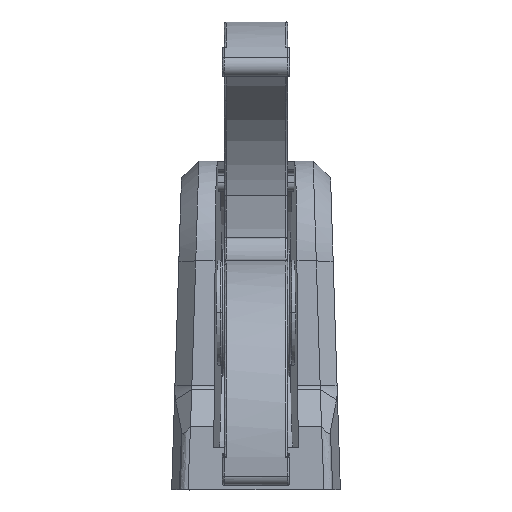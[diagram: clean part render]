
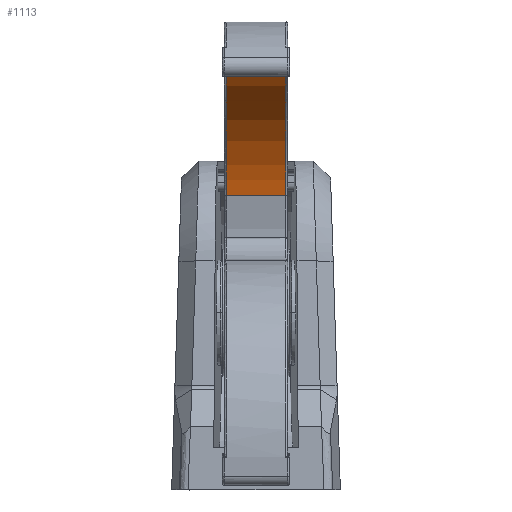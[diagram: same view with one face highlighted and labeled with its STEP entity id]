
A CAD part, left-side view. The second image highlights one B-rep face of the part: STEP entity #1113.
In plain terms, the highlighted free-form (B-spline) face has degree [2, 1] with [5, 2] control points.
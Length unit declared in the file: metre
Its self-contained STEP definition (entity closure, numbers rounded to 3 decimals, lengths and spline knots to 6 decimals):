
#1113 = ADVANCED_FACE( '', ( #2415 ), #2416, .F. );
#2415 = FACE_OUTER_BOUND( '', #9160, .T. );
#2416 = ( BOUNDED_SURFACE(  )B_SPLINE_SURFACE( 2, 1, ( ( #9163, #9164 ), ( #9165, #9166 ), ( #9167, #9168 ), ( #9169, #9170 ), ( #9171, #9172 ) ), .UNSPECIFIED., .F., .F., .F. )B_SPLINE_SURFACE_WITH_KNOTS( ( 3, 2, 3 ), ( 2, 2 ), ( 0., 0.25, 0.258329 ), ( 0., 1. ), .UNSPECIFIED. )GEOMETRIC_REPRESENTATION_ITEM(  )RATIONAL_B_SPLINE_SURFACE( ( ( 1., 1. ), ( 0.707, 0.707 ), ( 1., 1. ), ( 0.99, 0.99 ), ( 0.981, 0.981 ) ) )REPRESENTATION_ITEM( '' )SURFACE(  ) );
#9160 = EDGE_LOOP( '', ( #15692, #15693, #15694, #15695, #15696, #15697, #15698, #15699, #15700, #15701 ) );
#9163 = CARTESIAN_POINT( '', ( -0.051639, -0.00765, 0.098119 ) );
#9164 = CARTESIAN_POINT( '', ( -0.051639, 0.00765, 0.098119 ) );
#9165 = CARTESIAN_POINT( '', ( -0.013399, -0.00765, 0.109854 ) );
#9166 = CARTESIAN_POINT( '', ( -0.013399, 0.00765, 0.109854 ) );
#9167 = CARTESIAN_POINT( '', ( -0.001664, -0.00765, 0.071615 ) );
#9168 = CARTESIAN_POINT( '', ( -0.001664, 0.00765, 0.071615 ) );
#9169 = CARTESIAN_POINT( '', ( -0.001385, -0.00765, 0.070705 ) );
#9170 = CARTESIAN_POINT( '', ( -0.001385, 0.00765, 0.070705 ) );
#9171 = CARTESIAN_POINT( '', ( -0.001149, -0.00765, 0.069783 ) );
#9172 = CARTESIAN_POINT( '', ( -0.001149, 0.00765, 0.069783 ) );
#15692 = ORIENTED_EDGE( '', *, *, #18036, .F. );
#15693 = ORIENTED_EDGE( '', *, *, #17722, .T. );
#15694 = ORIENTED_EDGE( '', *, *, #17825, .F. );
#15695 = ORIENTED_EDGE( '', *, *, #17296, .F. );
#15696 = ORIENTED_EDGE( '', *, *, #17769, .F. );
#15697 = ORIENTED_EDGE( '', *, *, #17152, .F. );
#15698 = ORIENTED_EDGE( '', *, *, #17242, .F. );
#15699 = ORIENTED_EDGE( '', *, *, #17891, .F. );
#15700 = ORIENTED_EDGE( '', *, *, #16995, .F. );
#15701 = ORIENTED_EDGE( '', *, *, #17089, .F. );
#16995 = EDGE_CURVE( '', #18677, #18679, #18680, .F. );
#17089 = EDGE_CURVE( '', #18844, #18677, #18846, .F. );
#17152 = EDGE_CURVE( '', #18949, #18950, #18951, .T. );
#17242 = EDGE_CURVE( '', #19105, #18949, #19107, .T. );
#17296 = EDGE_CURVE( '', #19191, #19193, #19194, .T. );
#17722 = EDGE_CURVE( '', #19826, #19824, #19827, .F. );
#17769 = EDGE_CURVE( '', #18950, #19191, #19901, .T. );
#17825 = EDGE_CURVE( '', #19193, #19824, #19982, .T. );
#17891 = EDGE_CURVE( '', #18679, #19105, #20070, .F. );
#18036 = EDGE_CURVE( '', #19826, #18844, #20244, .F. );
#18677 = VERTEX_POINT( '', #22262 );
#18679 = VERTEX_POINT( '', #22273 );
#18680 = B_SPLINE_CURVE_WITH_KNOTS( '', 1, ( #22274, #22275 ), .UNSPECIFIED., .F., .F., ( 2, 2 ), ( 0., 0.315744 ), .UNSPECIFIED. );
#18844 = VERTEX_POINT( '', #23351 );
#18846 = B_SPLINE_CURVE_WITH_KNOTS( '', 3, ( #23361, #23362, #23363, #23364, #23365, #23366, #23367, #23368, #23369 ), .UNSPECIFIED., .F., .F., ( 4, 1, 1, 1, 1, 1, 4 ), ( 0., 0.189411, 0.381424, 0.573064, 0.762974, 0.883432, 1. ), .UNSPECIFIED. );
#18949 = VERTEX_POINT( '', #24019 );
#18950 = VERTEX_POINT( '', #24020 );
#18951 = ( BOUNDED_CURVE(  )B_SPLINE_CURVE( 2, ( #24023, #24024, #24025 ), .UNSPECIFIED., .F., .F. )B_SPLINE_CURVE_WITH_KNOTS( ( 3, 3 ), ( 0., 0.958976 ), .UNSPECIFIED. )CURVE(  )GEOMETRIC_REPRESENTATION_ITEM(  )RATIONAL_B_SPLINE_CURVE( ( 1., 0.999, 1. ) )REPRESENTATION_ITEM( '' ) );
#19105 = VERTEX_POINT( '', #25188 );
#19107 = B_SPLINE_CURVE_WITH_KNOTS( '', 1, ( #25201, #25202 ), .UNSPECIFIED., .F., .F., ( 2, 2 ), ( 0., 1. ), .UNSPECIFIED. );
#19191 = VERTEX_POINT( '', #25612 );
#19193 = VERTEX_POINT( '', #25620 );
#19194 = B_SPLINE_CURVE_WITH_KNOTS( '', 3, ( #25621, #25622, #25623, #25624, #25625, #25626, #25627, #25628, #25629 ), .UNSPECIFIED., .F., .F., ( 4, 1, 1, 1, 1, 1, 4 ), ( 0., 0.189411, 0.381424, 0.573064, 0.762974, 0.883432, 1. ), .UNSPECIFIED. );
#19824 = VERTEX_POINT( '', #30571 );
#19826 = VERTEX_POINT( '', #30582 );
#19827 = ( BOUNDED_CURVE(  )B_SPLINE_CURVE( 1, ( #30585, #30586 ), .UNSPECIFIED., .F., .F. )B_SPLINE_CURVE_WITH_KNOTS( ( 2, 2 ), ( 0., 1. ), .UNSPECIFIED. )CURVE(  )GEOMETRIC_REPRESENTATION_ITEM(  )RATIONAL_B_SPLINE_CURVE( ( 0.981, 0.981 ) )REPRESENTATION_ITEM( '' ) );
#19901 = B_SPLINE_CURVE_WITH_KNOTS( '', 1, ( #31136, #31137 ), .UNSPECIFIED., .F., .F., ( 2, 2 ), ( 0., 0.315744 ), .UNSPECIFIED. );
#19982 = ( BOUNDED_CURVE(  )B_SPLINE_CURVE( 2, ( #31721, #31722, #31723 ), .UNSPECIFIED., .F., .F. )B_SPLINE_CURVE_WITH_KNOTS( ( 3, 3 ), ( 0.002242, 1. ), .UNSPECIFIED. )CURVE(  )GEOMETRIC_REPRESENTATION_ITEM(  )RATIONAL_B_SPLINE_CURVE( ( 0.999, 0.728, 1. ) )REPRESENTATION_ITEM( '' ) );
#20070 = ( BOUNDED_CURVE(  )B_SPLINE_CURVE( 2, ( #32482, #32483, #32484 ), .UNSPECIFIED., .F., .F. )B_SPLINE_CURVE_WITH_KNOTS( ( 3, 3 ), ( 0., 0.958976 ), .UNSPECIFIED. )CURVE(  )GEOMETRIC_REPRESENTATION_ITEM(  )RATIONAL_B_SPLINE_CURVE( ( 1., 0.999, 1. ) )REPRESENTATION_ITEM( '' ) );
#20244 = ( BOUNDED_CURVE(  )B_SPLINE_CURVE( 2, ( #33964, #33965, #33966 ), .UNSPECIFIED., .F., .F. )B_SPLINE_CURVE_WITH_KNOTS( ( 3, 3 ), ( 0.002242, 1. ), .UNSPECIFIED. )CURVE(  )GEOMETRIC_REPRESENTATION_ITEM(  )RATIONAL_B_SPLINE_CURVE( ( 0.999, 0.728, 1. ) )REPRESENTATION_ITEM( '' ) );
#22262 = CARTESIAN_POINT( '', ( -0.047564, 0.007376, 0.099139 ) );
#22273 = CARTESIAN_POINT( '', ( -0.047564, 0.00755, 0.099139 ) );
#22274 = CARTESIAN_POINT( '', ( -0.047564, 0.00755, 0.099139 ) );
#22275 = CARTESIAN_POINT( '', ( -0.047564, 0.007376, 0.099139 ) );
#23351 = CARTESIAN_POINT( '', ( -0.047443, 0.007, 0.099162 ) );
#23361 = CARTESIAN_POINT( '', ( -0.047564, 0.007376, 0.099139 ) );
#23362 = CARTESIAN_POINT( '', ( -0.047563, 0.007351, 0.099139 ) );
#23363 = CARTESIAN_POINT( '', ( -0.047561, 0.0073, 0.099139 ) );
#23364 = CARTESIAN_POINT( '', ( -0.047545, 0.007225, 0.099142 ) );
#23365 = CARTESIAN_POINT( '', ( -0.047521, 0.007152, 0.099147 ) );
#23366 = CARTESIAN_POINT( '', ( -0.047494, 0.00709, 0.099152 ) );
#23367 = CARTESIAN_POINT( '', ( -0.047468, 0.00704, 0.099157 ) );
#23368 = CARTESIAN_POINT( '', ( -0.047451, 0.007013, 0.099161 ) );
#23369 = CARTESIAN_POINT( '', ( -0.047443, 0.007, 0.099162 ) );
#24019 = CARTESIAN_POINT( '', ( -0.051639, -0.00755, 0.098119 ) );
#24020 = CARTESIAN_POINT( '', ( -0.047564, -0.00755, 0.099139 ) );
#24023 = CARTESIAN_POINT( '', ( -0.051639, -0.00755, 0.098119 ) );
#24024 = CARTESIAN_POINT( '', ( -0.049628, -0.00755, 0.098736 ) );
#24025 = CARTESIAN_POINT( '', ( -0.047564, -0.00755, 0.099139 ) );
#25188 = CARTESIAN_POINT( '', ( -0.051639, 0.00755, 0.098119 ) );
#25201 = CARTESIAN_POINT( '', ( -0.051639, 0.00755, 0.098119 ) );
#25202 = CARTESIAN_POINT( '', ( -0.051639, -0.00755, 0.098119 ) );
#25612 = CARTESIAN_POINT( '', ( -0.047564, -0.007376, 0.099139 ) );
#25620 = CARTESIAN_POINT( '', ( -0.047443, -0.007, 0.099162 ) );
#25621 = CARTESIAN_POINT( '', ( -0.047564, -0.007376, 0.099139 ) );
#25622 = CARTESIAN_POINT( '', ( -0.047563, -0.007351, 0.099139 ) );
#25623 = CARTESIAN_POINT( '', ( -0.047561, -0.0073, 0.099139 ) );
#25624 = CARTESIAN_POINT( '', ( -0.047545, -0.007225, 0.099142 ) );
#25625 = CARTESIAN_POINT( '', ( -0.047521, -0.007152, 0.099147 ) );
#25626 = CARTESIAN_POINT( '', ( -0.047494, -0.00709, 0.099152 ) );
#25627 = CARTESIAN_POINT( '', ( -0.047468, -0.00704, 0.099157 ) );
#25628 = CARTESIAN_POINT( '', ( -0.047451, -0.007013, 0.099161 ) );
#25629 = CARTESIAN_POINT( '', ( -0.047443, -0.007, 0.099162 ) );
#30571 = CARTESIAN_POINT( '', ( -0.001149, -0.007, 0.069783 ) );
#30582 = CARTESIAN_POINT( '', ( -0.001149, 0.007, 0.069783 ) );
#30585 = CARTESIAN_POINT( '', ( -0.001149, -0.007, 0.069783 ) );
#30586 = CARTESIAN_POINT( '', ( -0.001149, 0.007, 0.069783 ) );
#31136 = CARTESIAN_POINT( '', ( -0.047564, -0.00755, 0.099139 ) );
#31137 = CARTESIAN_POINT( '', ( -0.047564, -0.007376, 0.099139 ) );
#31721 = CARTESIAN_POINT( '', ( -0.047443, -0.007, 0.099162 ) );
#31722 = CARTESIAN_POINT( '', ( -0.01047, -0.007, 0.106258 ) );
#31723 = CARTESIAN_POINT( '', ( -0.001149, -0.007, 0.069783 ) );
#32482 = CARTESIAN_POINT( '', ( -0.051639, 0.00755, 0.098119 ) );
#32483 = CARTESIAN_POINT( '', ( -0.049628, 0.00755, 0.098736 ) );
#32484 = CARTESIAN_POINT( '', ( -0.047564, 0.00755, 0.099139 ) );
#33964 = CARTESIAN_POINT( '', ( -0.047443, 0.007, 0.099162 ) );
#33965 = CARTESIAN_POINT( '', ( -0.01047, 0.007, 0.106258 ) );
#33966 = CARTESIAN_POINT( '', ( -0.001149, 0.007, 0.069783 ) );
